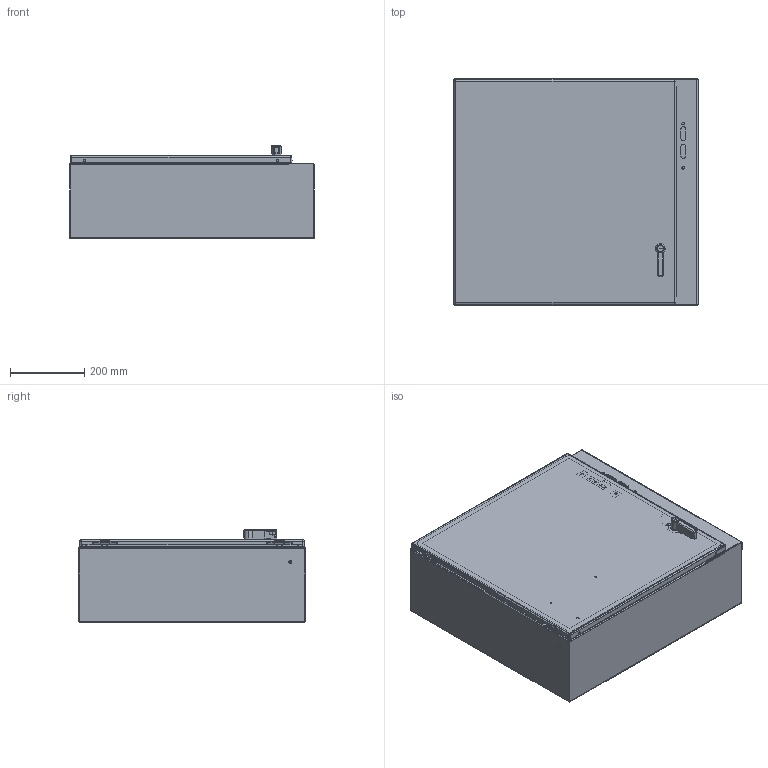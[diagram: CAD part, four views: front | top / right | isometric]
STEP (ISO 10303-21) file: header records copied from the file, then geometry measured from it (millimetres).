
FILE_DESCRIPTION (( 'STEP AP203' ), '1' );
FILE_NAME ('cdsc24268.STEP', '2020-02-13T22:44:00', ( '' ), ( '' ), 'SwSTEP 2.0', 'SolidWorks 2016', '' );
FILE_SCHEMA (( 'CONFIG_CONTROL_DESIGN' ));
Length unit declared in the file: inch
Products named in the file (38): 87543027; 64144001; 89076399; 99411834; 64206003; 89131630; 23271001_After Weld; 79410_LOCKED; 64208001; 64103001; 89076193; 64210001; 89123196; 87756321; 64212002; 87938431; 87938371; 87540678; 99411612; 89175157_89175157; 87938391_assy; 89123198; 87784879_CWHPTO; 89173484; 87938414_fip; 87932266; 22101011; 87931362_87931362; 87415910_Locked; 99411839_99411839; 89082725; 87541995; 64207001; 64157001_Locked; cdsc24268; 89173485; 99401225; 64205001
Assembly tree (53 placements, depth 5):
  cdsc24268
    89082725
      87756321
      23271001_After Weld  x4
      99401225
    87543027  x2
    89076399  x2
      89076193
      89131630
    87938391_assy
      87938414_fip
        87938371
        99401225  x3
        87931362_87931362  x2
      87415910_Locked
        64157001_Locked
          87540678
          64210001
          64208001
          64205001  x2
          87541995
          87932266
        64103001  x2
        64206003
        64207001
        99411834  x2
        64212002
        64144001
        99411612  x2
      87938431
      22101011  x2
      99411839_99411839  x2
      89173484
      89173485
      89175157_89175157  x2
    87784879_CWHPTO
      79410_LOCKED
    89123198
      89123196
Bounding box: 659.13 x 609.6 x 251.76 mm (x, y, z)
Volume: 2457371.4 mm3; surface area: 3047632.8 mm2
Topology: 49 solids, 49 shells, 3428 faces, 8919 edges, 5622 vertices
Faces by surface type: plane 1592, cylinder 967, bspline 541, torus 173, cone 99, sphere 56
Entity records: 94422 total; most frequent: CARTESIAN_POINT 34063, ORIENTED_EDGE 12290, DIRECTION 10598, EDGE_CURVE 6145, VERTEX_POINT 3899, AXIS2_PLACEMENT_3D 3547, VECTOR 3504, LINE 3504
